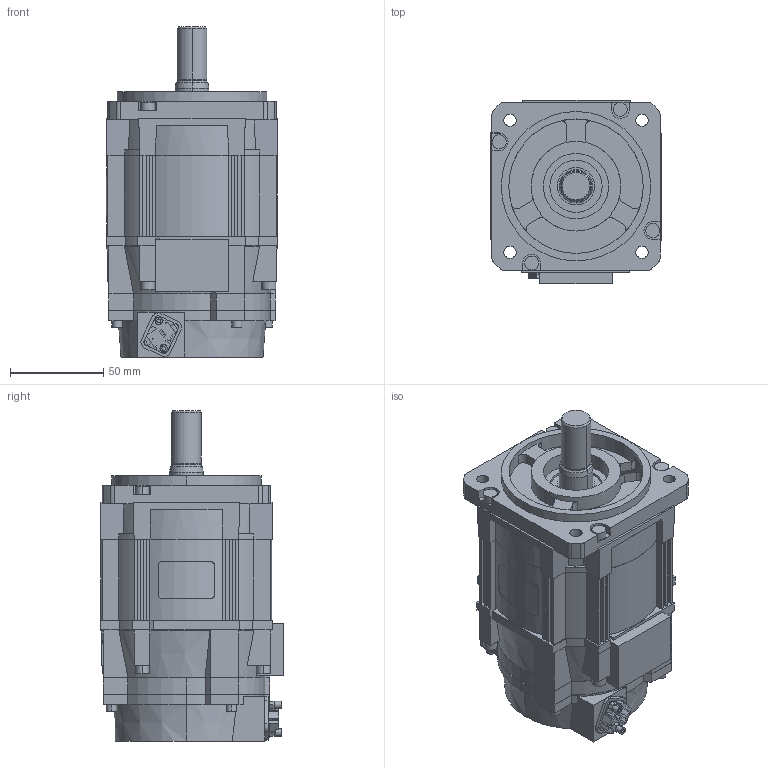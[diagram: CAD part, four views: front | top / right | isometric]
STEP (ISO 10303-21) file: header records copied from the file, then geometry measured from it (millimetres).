
FILE_DESCRIPTION (( 'STEP AP214' ), '1' );
FILE_NAME ('sgmxg_05aua21a1.STEP', '2022-09-14T02:30:13', ( '' ), ( '' ), 'SwSTEP 2.0', 'SolidWorks 2016', '' );
FILE_SCHEMA (( 'AUTOMOTIVE_DESIGN' ));
Length unit declared in the file: millimetre
Products named in the file (1): sgmxg_05aua21a1
Bounding box: 92 x 98 x 177.2 mm (x, y, z)
Volume: 925540.1 mm3; surface area: 79603.2 mm2
Topology: 1 solids, 1 shells, 614 faces, 1698 edges, 1121 vertices
Faces by surface type: plane 416, cylinder 176, cone 14, torus 4, bspline 4
Entity records: 20370 total; most frequent: CARTESIAN_POINT 3759, ORIENTED_EDGE 3396, DIRECTION 3250, EDGE_CURVE 1698, VECTOR 1236, LINE 1236, VERTEX_POINT 1121, AXIS2_PLACEMENT_3D 1007
